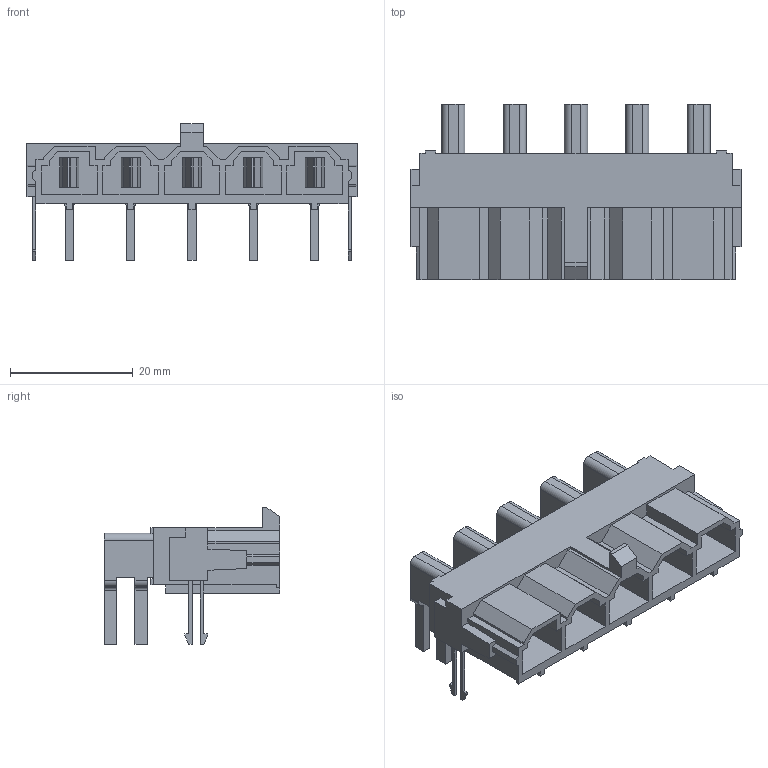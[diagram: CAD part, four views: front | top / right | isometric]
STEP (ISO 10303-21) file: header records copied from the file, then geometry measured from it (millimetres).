
FILE_DESCRIPTION(/* description */ (''),/* implementation_level */ '2;1');
FILE_NAME(/* name */ '428205243wbm000_02_214.stp',/* time_stamp */ '2024-09-16T16:35:39+05:00',/* author */ (''),/* organization */ (''),/* preprocessor_version */ 'ST-DEVELOPER v16.7',/* originating_system */ 'SIEMENS PLM Software NX 1919',/* authorisation */ '');
FILE_SCHEMA (('AUTOMOTIVE_DESIGN { 1 0 10303 214 3 1 1 1 }'));
Length unit declared in the file: millimetre
Products named in the file (1): 428205243wbm000_02
Bounding box: 53.82 x 28.59 x 22.33 mm (x, y, z)
Volume: 7861.7 mm3; surface area: 8153.4 mm2
Topology: 1 solids, 1 shells, 397 faces, 1132 edges, 752 vertices
Faces by surface type: plane 347, cylinder 50
Entity records: 12766 total; most frequent: CARTESIAN_POINT 2282, ORIENTED_EDGE 2264, DIRECTION 2028, EDGE_CURVE 1132, LINE 1032, VECTOR 1032, VERTEX_POINT 752, AXIS2_PLACEMENT_3D 498
